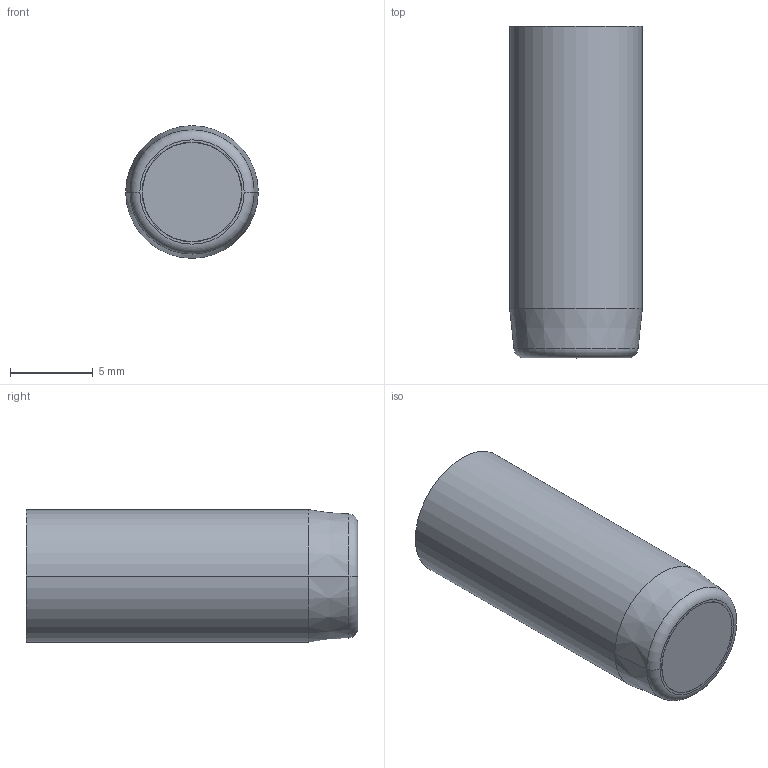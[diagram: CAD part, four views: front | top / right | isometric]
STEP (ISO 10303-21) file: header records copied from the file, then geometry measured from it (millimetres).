
FILE_DESCRIPTION (( 'STEP AP214' ), '1' );
FILE_NAME ('FA 084712-21.STEP', '2020-08-11T09:05:45', ( '' ), ( '' ), 'SwSTEP 2.0', 'SolidWorks 2019', '' );
FILE_SCHEMA (( 'AUTOMOTIVE_DESIGN' ));
Length unit declared in the file: millimetre
Products named in the file (6): D9FA 084712; DFA 084700-3; DFA 084700-2 comprimido; DIA 471714; DFA 084700-1; FA 084712-21
Assembly tree (5 placements, depth 2):
  FA 084712-21
    D9FA 084712
    DFA 084700-1
    DIA 471714
    DFA 084700-3
    DFA 084700-2 comprimido
Bounding box: 8 x 20 x 8 mm (x, y, z)
Volume: 846.6 mm3; surface area: 1514.4 mm2
Topology: 5 solids, 5 shells, 332 faces, 842 edges, 548 vertices
Faces by surface type: plane 150, cylinder 131, cone 24, bspline 13, torus 12, sphere 2
Entity records: 12216 total; most frequent: CARTESIAN_POINT 3773, DIRECTION 1750, ORIENTED_EDGE 1680, EDGE_CURVE 840, AXIS2_PLACEMENT_3D 641, VERTEX_POINT 548, VECTOR 468, LINE 468
